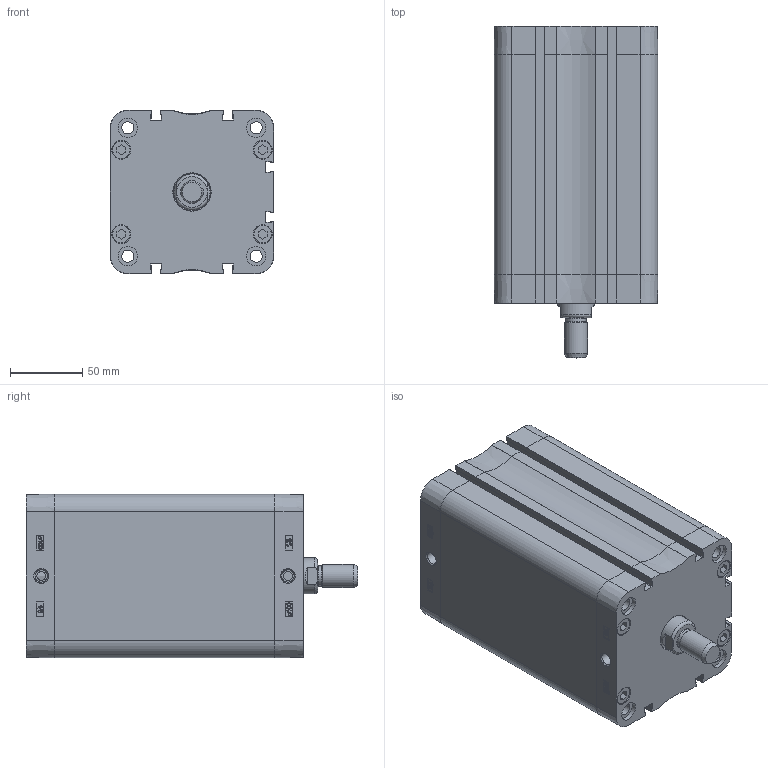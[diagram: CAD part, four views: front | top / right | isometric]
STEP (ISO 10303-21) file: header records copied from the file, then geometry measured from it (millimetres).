
FILE_DESCRIPTION((''),'2;1');
FILE_NAME('T:\Archivio Inventor\- CATALOGHI 2012\SERIE P - NUOVA\PDM\PDM100\PDM100.---.GS.M\PDM100.125.GS.M.stp','2013-02-05T11:44:29',('Administrator'),(''),'Autodesk Inventor 2012','Autodesk Inventor 2012','');
FILE_SCHEMA(('CONFIG_CONTROL_DESIGN'));
Length unit declared in the file: millimetre
Products named in the file (1): PDM100.125.GS.M
Bounding box: 113.3 x 230 x 113.3 mm (x, y, z)
Volume: 918174 mm3; surface area: 269484.7 mm2
Topology: 1 solids, 5 shells, 908 faces, 2136 edges, 1312 vertices
Faces by surface type: plane 371, bspline 226, cylinder 148, cone 81, torus 58, sphere 24
Full cylindrical faces by diameter (mm): 6 x2, 8.3 x4, 8.376 x8, 8.566 x2, 9.976 x4, 12 x1, 12.7 x8, 13.1 x8, 13.5 x8, 14 x1, 16 x1, 25 x1, 25.5 x1, 100 x1, 103.5 x1, 103.7 x1
Entity records: 29567 total; most frequent: CARTESIAN_POINT 9699, ORIENTED_EDGE 4030, DIRECTION 3400, EDGE_CURVE 2015, VERTEX_POINT 1291, AXIS2_PLACEMENT_3D 1208, EDGE_LOOP 1088, VECTOR 984
